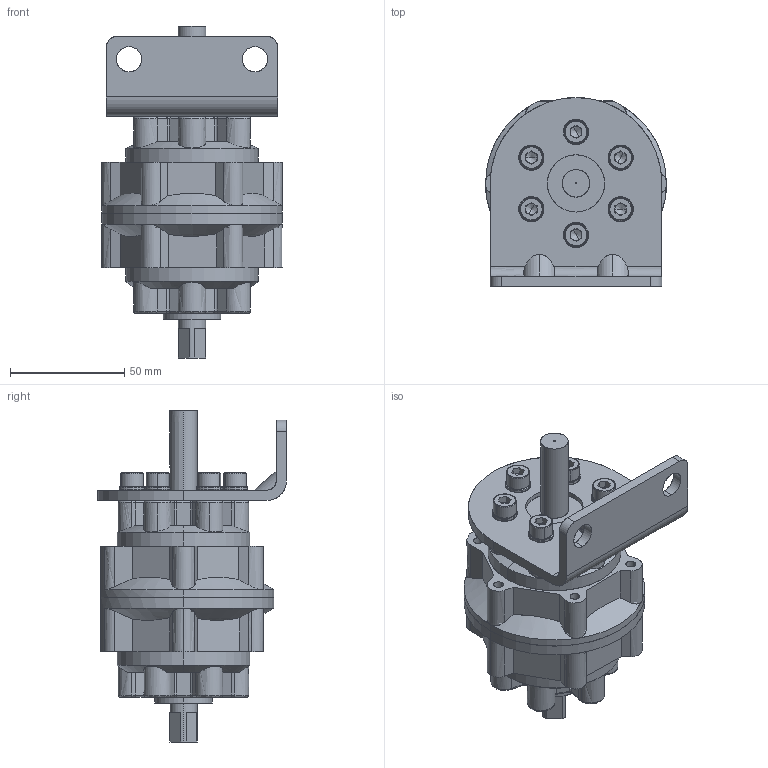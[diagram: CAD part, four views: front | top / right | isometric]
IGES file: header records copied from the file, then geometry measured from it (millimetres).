
Start section: SolidWorks IGES file using analytic representation for surfaces
Global section: file name: C:\Users\Chieh_Lu\Dropbox\¤u§@«Ç\PRN50-150-300-800\PRN50\PRN50\PRN50#-#-#-L1.IGS; native system: SolidWorks 2014; preprocessor: SolidWorks 2014; author: Chieh_Lu; date: 160115.003940; units: millimetre
Bounding box: 79 x 82.5 x 145 mm (x, y, z)
Surface area: 82185.8 mm2 (no closed solid volume)
Topology: 0 solids, 0 shells, 755 faces, 9761 edges, 9721 vertices
Faces by surface type: bspline 393, revolution 362
